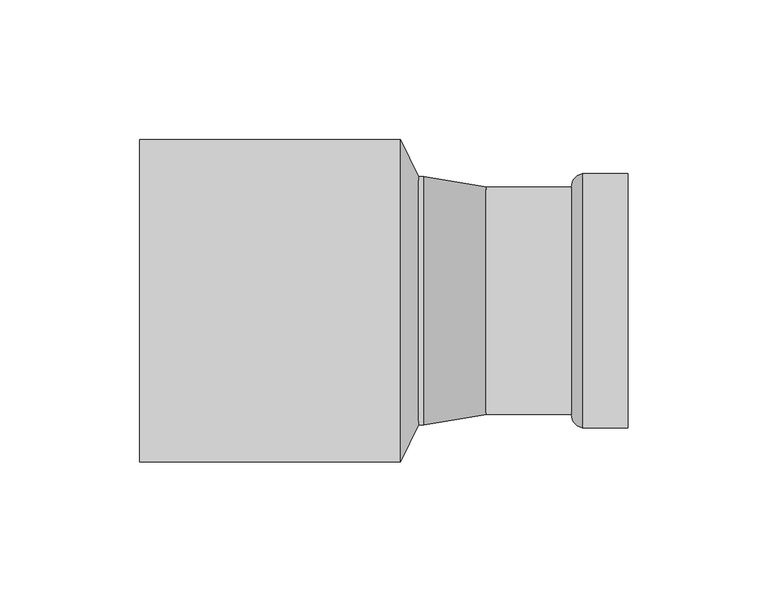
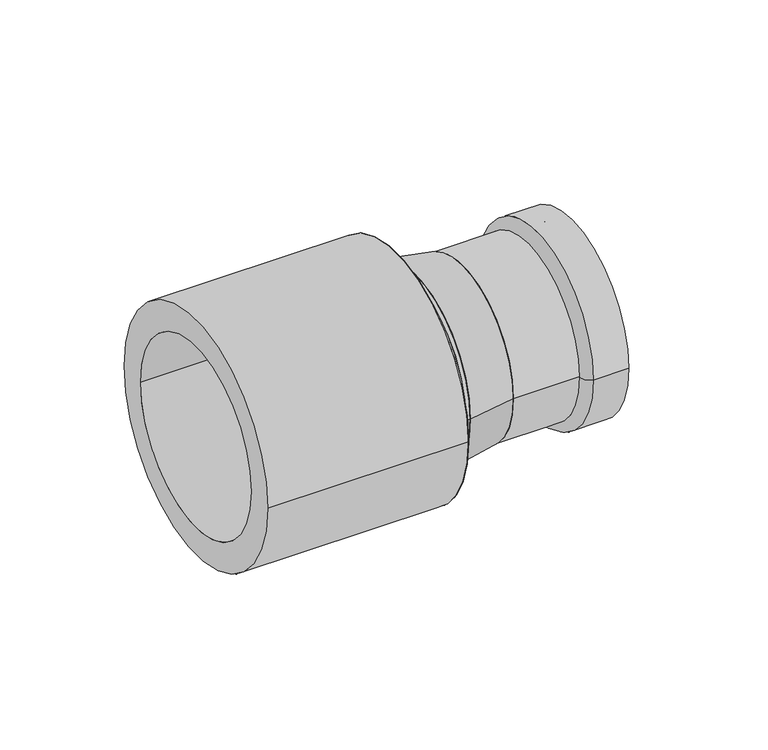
"""IFC4 building model written with IfcOpenShell, lengths in millimetres: pipe fitting geometry, VALTEC_VTi.905.I_Вставка переходная_Нержавеющая сталь : VTi.905.I."""

import ifcopenshell
import ifcopenshell.guid

model = None  # the IFC model being written
_history = None  # IfcOwnerHistory: only IFC2X3 demands one
_inside = {}  # id of a spatial element -> (the spatial element, [elements in it])
_under = {}  # id of a project, library or spatial element -> (it, [spatial elements below it])
_declared = {}  # id of a project -> (the project, [libraries it declares])
_typed = {}  # id of a type object -> (the type object, [elements of that type])
_made_of = {}  # id of a material, layer set ... -> (it, [elements and type objects made of it])


def new_model(schema):
    """Start an empty IFC model of exactly this schema.

    Asked for "IFC4X3", IfcOpenShell would pick the latest addendum, in which some entities
    have other attributes; the version numbers below select the first issue.
    IFC2X3 requires an IfcOwnerHistory on every rooted entity: one is made here for all.
    """
    global model, _history
    if schema == "IFC4X3":
        model = ifcopenshell.file(schema_version=(4, 3, 0, 0))
    else:
        model = ifcopenshell.file(schema=schema)
    _inside.clear()
    _under.clear()
    _declared.clear()
    _typed.clear()
    _made_of.clear()
    _history = None
    if model.schema == "IFC2X3":
        org = make("IfcOrganization", Name="unknown")
        user = make(
            "IfcPersonAndOrganization",
            ThePerson=make("IfcPerson", FamilyName="unknown"),
            TheOrganization=org,
        )
        app = make(
            "IfcApplication",
            ApplicationDeveloper=org,
            Version="unknown",
            ApplicationFullName="unknown",
            ApplicationIdentifier="unknown",
        )
        _history = make(
            "IfcOwnerHistory",
            OwningUser=user,
            OwningApplication=app,
            ChangeAction="ADDED",
            CreationDate=0,
        )
    return model


def make(cls, **values):
    """One entity of the class cls with the attributes given. An attribute that is None is left unset."""
    return model.create_entity(
        cls, **{name: value for name, value in values.items() if value is not None}
    )


def rooted(cls, **values):
    """An entity with a GlobalId (a new one), such as an element, a storey or a relation."""
    return make(cls, GlobalId=ifcopenshell.guid.new(), OwnerHistory=_history, **values)


def si_unit(unit_type, name, prefix=None):
    """IfcSIUnit, for example si_unit("LENGTHUNIT", "METRE", prefix="MILLI")."""
    return make("IfcSIUnit", UnitType=unit_type, Prefix=prefix, Name=name)


def assignment(units):
    """IfcUnitAssignment: the units of a project."""
    return None if units is None else make("IfcUnitAssignment", Units=units)


def point(xyz):
    """IfcCartesianPoint."""
    return None if xyz is None else make("IfcCartesianPoint", Coordinates=xyz)


def direction(xyz):
    """IfcDirection."""
    return None if xyz is None else make("IfcDirection", DirectionRatios=xyz)


def frame(location, z_axis=None, x_axis=None):
    """IfcAxis2Placement3D, a coordinate frame: its origin and axes. An axis left out is left unset."""
    return make(
        "IfcAxis2Placement3D",
        Location=point(location),
        Axis=direction(z_axis),
        RefDirection=direction(x_axis),
    )


def frame_2d(location, x_axis=None):
    """IfcAxis2Placement2D, a coordinate frame in the plane: its origin and x axis."""
    return make(
        "IfcAxis2Placement2D", Location=point(location), RefDirection=direction(x_axis)
    )


def origin():
    """The frame at (0, 0, 0) with its axes left unset."""
    return frame((0.0, 0.0, 0.0))


def origin_2d():
    """The frame at (0, 0) in the plane with its x axis left unset."""
    return frame_2d((0.0, 0.0))


def place(relative_to, where):
    """IfcLocalPlacement: puts the frame where relative to a parent placement (None: the world)."""
    return make(
        "IfcLocalPlacement", PlacementRelTo=relative_to, RelativePlacement=where
    )


def context(
    kind, dimensions, precision=None, world=None, true_north=None, identifier=None
):
    """IfcGeometricRepresentationContext, for example the 3D "Model" context."""
    return make(
        "IfcGeometricRepresentationContext",
        ContextIdentifier=identifier,
        ContextType=kind,
        CoordinateSpaceDimension=dimensions,
        Precision=precision,
        WorldCoordinateSystem=world,
        TrueNorth=true_north,
    )


def project(units=None, contexts=None):
    """IfcProject with its units and contexts."""
    return rooted(
        "IfcProject",
        Name="project",
        RepresentationContexts=contexts,
        UnitsInContext=assignment(units),
    )


def spatial(cls, under=None, at=None, **own):
    """A site, building, storey or space (cls), placed at a placement, below another one or the project."""
    s = rooted(cls, ObjectPlacement=at, **own)
    if under is not None:
        _under.setdefault(under.id(), (under, []))[1].append(s)
    return s


def polyline(points):
    """IfcPolyline through the points."""
    return make("IfcPolyline", Points=[point(p) for p in points])


def circle_curve(where, radius):
    """IfcCircle in the frame where."""
    return make("IfcCircle", Position=where, Radius=radius)


def ellipse_curve(where, semi_axis1, semi_axis2):
    """IfcEllipse in the frame where."""
    return make(
        "IfcEllipse", Position=where, SemiAxis1=semi_axis1, SemiAxis2=semi_axis2
    )


def trimmed(basis, trim1, trim2, sense, master):
    """IfcTrimmedCurve: the piece of a basis curve between two trims."""
    return make(
        "IfcTrimmedCurve",
        BasisCurve=basis,
        Trim1=trim1,
        Trim2=trim2,
        SenseAgreement=sense,
        MasterRepresentation=master,
    )


def segment(curve, same_sense, transition):
    """IfcCompositeCurveSegment."""
    return make(
        "IfcCompositeCurveSegment",
        Transition=transition,
        SameSense=same_sense,
        ParentCurve=curve,
    )


def composite_curve(segments, self_intersect=None):
    """IfcCompositeCurve: segments joined end to end."""
    return make("IfcCompositeCurve", Segments=segments, SelfIntersect=self_intersect)


def outline(outer, holes=None, kind="AREA"):
    """IfcArbitraryClosedProfileDef: a profile drawn as a closed curve; with holes, ...WithVoids."""
    if holes is None:
        return make("IfcArbitraryClosedProfileDef", ProfileType=kind, OuterCurve=outer)
    return make(
        "IfcArbitraryProfileDefWithVoids",
        ProfileType=kind,
        OuterCurve=outer,
        InnerCurves=holes,
    )


def extrude(swept, where, along, depth):
    """IfcExtrudedAreaSolid: the profile swept, set in the frame where, extruded along a direction by depth."""
    return make(
        "IfcExtrudedAreaSolid",
        SweptArea=swept,
        Position=where,
        ExtrudedDirection=direction(along),
        Depth=depth,
    )


def shape(context_of_items, identifier, shape_type, items):
    """IfcShapeRepresentation: the items that make up one representation, for example the "Body"."""
    return make(
        "IfcShapeRepresentation",
        ContextOfItems=context_of_items,
        RepresentationIdentifier=identifier,
        RepresentationType=shape_type,
        Items=items,
    )


def source(mapping_origin, context_of_items, identifier, shape_type, items):
    """IfcRepresentationMap: a shape defined once, which mapped items show again and again."""
    return make(
        "IfcRepresentationMap",
        MappingOrigin=mapping_origin,
        MappedRepresentation=shape(context_of_items, identifier, shape_type, items),
    )


def transform(
    local_origin,
    x_axis=None,
    y_axis=None,
    z_axis=None,
    scale=None,
    scale2=None,
    scale3=None,
    uniform=True,
):
    """IfcCartesianTransformationOperator3D, or its non-uniform kind. x_axis, y_axis, z_axis: its Axis1, 2, 3."""
    if uniform:
        return make(
            "IfcCartesianTransformationOperator3D",
            Axis1=direction(x_axis),
            Axis2=direction(y_axis),
            LocalOrigin=point(local_origin),
            Scale=scale,
            Axis3=direction(z_axis),
        )
    return make(
        "IfcCartesianTransformationOperator3DnonUniform",
        Axis1=direction(x_axis),
        Axis2=direction(y_axis),
        LocalOrigin=point(local_origin),
        Scale=scale,
        Axis3=direction(z_axis),
        Scale2=scale2,
        Scale3=scale3,
    )


def mapped(mapping_source, mapping_target):
    """IfcMappedItem: shows the shape of a source again, moved by a transform."""
    return make(
        "IfcMappedItem", MappingSource=mapping_source, MappingTarget=mapping_target
    )


def made_of(thing, what):
    """Note that an element or type object is made of a material, layer set ...; save() writes the relation."""
    if what is not None:
        _made_of.setdefault(what.id(), (what, []))[1].append(thing)
    return thing


def element(
    cls,
    number,
    at=None,
    inside=None,
    cuts=None,
    type_object=None,
    material=None,
    context=None,
    identifier="Body",
    shape_type=None,
    held_by="IfcProductDefinitionShape",
    body=None,
    shapes=None,
    **own,
):
    """One element of the class cls, such as IfcWall. Its Tag is "e" and its number.

    at: its placement. inside: the storey or other place that contains it. cuts: it is an
    opening in that element (IfcRelVoidsElement). A single representation is given by context,
    identifier, shape_type and body (its items); several are given by shapes. held_by: the class
    of the entity that holds the representations. save() writes the other relations.
    """
    e = rooted(cls, Tag="e%d" % number, ObjectPlacement=at, **own)
    if body is not None:
        shapes = [shape(context, identifier, shape_type, body)]
    if shapes is not None:
        e.Representation = make(held_by, Representations=shapes)
    if inside is not None:
        _inside.setdefault(inside.id(), (inside, []))[1].append(e)
    if cuts is not None:
        rooted(
            "IfcRelVoidsElement", RelatingBuildingElement=cuts, RelatedOpeningElement=e
        )
    if type_object is not None:
        _typed.setdefault(type_object.id(), (type_object, []))[1].append(e)
    return made_of(e, material)


def aggregate(whole, parts):
    """IfcRelAggregates: a whole, such as a stair, and the parts it consists of."""
    return rooted("IfcRelAggregates", RelatingObject=whole, RelatedObjects=parts)


def save(model, path):
    """Write the relations noted so far, then the file.

    IfcRelAggregates (storeys below a building ...), IfcRelContainedInSpatialStructure (elements
    in a storey), IfcRelDefinesByType, IfcRelAssociatesMaterial and IfcRelDeclares: one each for
    every whole, place, type object, material and project.
    """
    for whole, parts in _under.values():
        aggregate(whole, parts)
    for where, things in _inside.values():
        rooted(
            "IfcRelContainedInSpatialStructure",
            RelatedElements=things,
            RelatingStructure=where,
        )
    for kind, things in _typed.values():
        rooted("IfcRelDefinesByType", RelatedObjects=things, RelatingType=kind)
    for what, things in _made_of.values():
        rooted("IfcRelAssociatesMaterial", RelatedObjects=things, RelatingMaterial=what)
    for by, libraries in _declared.values():
        rooted("IfcRelDeclares", RelatingContext=by, RelatedDefinitions=libraries)
    model.write(path)


def plane_surface(at):
    """IfcPlane: the flat surface through the origin of the frame at, square to its z axis."""
    return make("IfcPlane", Position=at)


def cylinder_surface(at, radius):
    """IfcCylindricalSurface: all points at the distance radius from the z axis of the frame at."""
    return make("IfcCylindricalSurface", Position=at, Radius=radius)


def revolved_surface(curve, axis_point, axis_direction):
    """IfcSurfaceOfRevolution: the curve turned about the line through axis_point along axis_direction."""
    return make(
        "IfcSurfaceOfRevolution",
        SweptCurve=make("IfcArbitraryOpenProfileDef", ProfileType="CURVE", Curve=curve),
        AxisPosition=make("IfcAxis1Placement", Location=point(axis_point), Axis=direction(axis_direction)),
    )


def advanced_brep(points, edges, surfaces, faces):
    """IfcAdvancedBrep: a solid bounded by faces that lie on surfaces and meet in shared edges.

    An edge is (start, end): straight between two places in points (the first is 0);
    or (start, end, curve); or (start, end, curve, False) where it runs against its curve.
    A face is (place in surfaces, loops), or (place, loops, False) where it looks against
    its surface's normal. A loop lists edges by number (the first is 1), with a minus sign
    where the edge is run from its end to its start. The first loop is the outer one.
    """
    corners = [point(p) for p in points]
    vertices = [make("IfcVertexPoint", VertexGeometry=c) for c in corners]
    made = []
    for start, end, *more in edges:
        made.append(
            make(
                "IfcEdgeCurve",
                EdgeStart=vertices[start],
                EdgeEnd=vertices[end],
                EdgeGeometry=more[0] if more else make("IfcPolyline", Points=[corners[start], corners[end]]),
                SameSense=more[1] if len(more) > 1 else True,
            )
        )
    hull = []
    for where, loops, *sense in faces:
        bounds = []
        for j, loop in enumerate(loops):
            ring = [make("IfcOrientedEdge", EdgeElement=made[abs(k) - 1], Orientation=k > 0) for k in loop]
            bounds.append(
                make(
                    "IfcFaceOuterBound" if j == 0 else "IfcFaceBound",
                    Bound=make("IfcEdgeLoop", EdgeList=ring),
                    Orientation=True,
                )
            )
        hull.append(make("IfcAdvancedFace", Bounds=bounds, FaceSurface=surfaces[where], SameSense=sense[0] if sense else True))
    return make("IfcAdvancedBrep", Outer=make("IfcClosedShell", CfsFaces=hull))


def pipe_fitting_757c0c30(model_context):
    return source(origin(), model_context, "Body", "SolidModel", [
        advanced_brep(
        [(87.5, -38.05, 0.0), (87.5, -45.5, 0.0), (87.5, 45.5, 0.0), (87.5, 38.05, 0.0), (36.69, -38.05, 0.0), (36.69, 38.05, 0.0), (36.69, -40.75, 0.0), (36.69, 40.75, 0.0), (67.25, -40.75, 0.0), (67.25, 40.75, 0.0), (71.1, -45.5, 0.0), (71.1, 45.5, 0.0)],
        [
            (0, 1),
            (1, 2, circle_curve(frame((87.5, 0.0, 0.0), z_axis=(1.0, 0.0, 0.0), x_axis=(0.0, 1.0, 0.0)), 45.5)),
            (2, 3),
            (3, 0, circle_curve(frame((87.5, 0.0, 0.0), z_axis=(-1.0, 0.0, 0.0), x_axis=(0.0, 1.0, 0.0)), 38.05)),
            (2, 1, circle_curve(frame((87.5, 0.0, 0.0), z_axis=(1.0, 0.0, 0.0), x_axis=(0.0, 1.0, 0.0)), 45.5)),
            (0, 3, circle_curve(frame((87.5, 0.0, 0.0), z_axis=(-1.0, 0.0, 0.0), x_axis=(0.0, 1.0, 0.0)), 38.05)),
            (4, 0),
            (3, 5),
            (5, 4, circle_curve(frame((36.69, 0.0, 0.0), z_axis=(-1.0, 0.0, 0.0), x_axis=(0.0, 1.0, 0.0)), 38.05)),
            (4, 5, circle_curve(frame((36.69, 0.0, 0.0), z_axis=(-1.0, 0.0, 0.0), x_axis=(0.0, 1.0, 0.0)), 38.05)),
            (6, 4),
            (5, 7),
            (7, 6, circle_curve(frame((36.69, 0.0, 0.0), z_axis=(-1.0, 0.0, 0.0), x_axis=(0.0, 1.0, 0.0)), 40.75)),
            (6, 7, circle_curve(frame((36.69, 0.0, 0.0), z_axis=(-1.0, 0.0, 0.0), x_axis=(0.0, 1.0, 0.0)), 40.75)),
            (8, 6),
            (7, 9),
            (9, 8, circle_curve(frame((67.25, 0.0, 0.0), z_axis=(-1.0, 0.0, 0.0), x_axis=(0.0, 1.0, 0.0)), 40.75)),
            (8, 9, circle_curve(frame((67.25, 0.0, 0.0), z_axis=(-1.0, 0.0, 0.0), x_axis=(0.0, 1.0, 0.0)), 40.75)),
            (10, 8, circle_curve(frame((71.9665873, -40.862345, 0.0), z_axis=(0.0, 0.0, -1.0), x_axis=(-1.0, 0.0, 0.0)), 4.7179251)),
            (9, 11, circle_curve(frame((71.9665873, 40.862345, 0.0), z_axis=(0.0, 0.0, -1.0), x_axis=(-1.0, 0.0, 0.0)), 4.7179251)),
            (11, 10, circle_curve(frame((71.1, 0.0, 0.0), z_axis=(-1.0, 0.0, 0.0), x_axis=(0.0, 1.0, 0.0)), 45.5)),
            (10, 11, circle_curve(frame((71.1, 0.0, 0.0), z_axis=(-1.0, 0.0, 0.0), x_axis=(0.0, 1.0, 0.0)), 45.5)),
            (1, 10),
            (11, 2),
        ],
        [
            plane_surface(frame((87.5, 0.0, 0.0), z_axis=(1.0, 0.0, 0.0), x_axis=(0.0, 1.0, 0.0))),
            revolved_surface(polyline([(87.5, 38.05, 0.0), (36.69, 38.05, 0.0)]), (57.6506392, 0.0, 0.0), (1.0, 0.0, 0.0)),
            plane_surface(frame((36.69, 0.0, 0.0), z_axis=(-1.0, 0.0, 0.0), x_axis=(0.0, 1.0, 0.0))),
            cylinder_surface(frame((57.6506392, 0.0, 0.0), z_axis=(1.0, 0.0, 0.0), x_axis=(0.0, 1.0, 0.0)), 40.75),
            revolved_surface(trimmed(ellipse_curve(frame((71.9665873, 40.862345, 0.0), z_axis=(0.0, 0.0, -1.0), x_axis=(-1.0, 0.0, 0.0)), 4.7179251, 4.7179251), [point((67.25, 40.75, 0.0))], [point((71.1, 45.5, 0.0))], True, "CARTESIAN"), (57.6506392, 0.0, 0.0), (1.0, 0.0, 0.0)),
            cylinder_surface(frame((57.6506392, 0.0, 0.0), z_axis=(1.0, 0.0, 0.0), x_axis=(0.0, 1.0, 0.0)), 45.5),
        ],
        [
            (0, [[1, 2, 3, 4]]),
            (0, [[-3, 5, -1, 6]]),
            (1, [[7, -4, 8, 9]]),
            (1, [[-8, -6, -7, 10]]),
            (2, [[11, -9, 12, 13]]),
            (2, [[-12, -10, -11, 14]]),
            (3, [[15, -13, 16, 17]]),
            (3, [[-16, -14, -15, 18]]),
            (4, [[19, -17, 20, 21]]),
            (4, [[-20, -18, -19, 22]]),
            (5, [[23, -21, 24, -2]]),
            (5, [[-24, -22, -23, -5]]),
        ],
    ),
        advanced_brep(
        [(14.5, -44.45, 0.0), (14.5, 44.45, 0.0), (37.0, -40.75, 0.0), (37.0, 40.75, 0.0)],
        [
            (0, 1, circle_curve(frame((14.5, 0.0, 0.0), z_axis=(-1.0, 0.0, 0.0), x_axis=(0.0, -1.0, 0.0)), 44.45)),
            (1, 0, circle_curve(frame((14.5, 0.0, 0.0), z_axis=(-1.0, 0.0, 0.0), x_axis=(0.0, 1.0, 0.0)), 44.45)),
            (2, 3, circle_curve(frame((37.0, 0.0, 0.0), z_axis=(1.0, 0.0, 0.0), x_axis=(0.0, 1.0, 0.0)), 40.75)),
            (3, 2, circle_curve(frame((37.0, 0.0, 0.0), z_axis=(1.0, 0.0, 0.0), x_axis=(0.0, -1.0, 0.0)), 40.75)),
            (2, 0),
            (1, 3),
        ],
        [
            plane_surface(frame((14.5, 0.0, 0.0), z_axis=(-1.0, 0.0, 0.0), x_axis=(0.0, 0.0, 1.0))),
            plane_surface(frame((37.0, 0.0, 0.0), z_axis=(1.0, 0.0, 0.0), x_axis=(0.0, 0.0, 1.0))),
            revolved_surface(polyline([(37.0, -40.75000000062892, 0.0), (14.5, -44.45, 0.0)]), (284.8040541, 0.0, 0.0), (-1.0, 0.0, 0.0)),
            revolved_surface(polyline([(37.0, 40.75000000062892, 0.0), (14.5, 44.45, 0.0)]), (284.8040541, 0.0, 0.0), (-1.0, 0.0, 0.0)),
        ],
        [
            (0, [[1, 2]]),
            (1, [[3, 4]]),
            (2, [[-3, 5, -2, 6]]),
            (3, [[-4, -6, -1, -5]]),
        ],
    ),
        extrude(outline(composite_curve([segment(trimmed(circle_curve(origin_2d(), 44.45), [point((-44.45, 0.0))], [point((44.45, 0.0))], False, "CARTESIAN"), True, "CONTINUOUS"), segment(trimmed(circle_curve(origin_2d(), 44.45), [point((44.45, 0.0))], [point((-44.45, 0.0))], False, "CARTESIAN"), True, "CONTINUOUS")], self_intersect=False)), frame((12.5, 0.0, 0.0), z_axis=(1.0, 0.0, 0.0), x_axis=(0.0, 1.0, 0.0)), (0.0, 0.0, 1.0), 2.0),
        advanced_brep(
        [(12.5, -44.45, 0.0), (12.5, 44.45, 0.0), (6.0, -57.785, 0.0), (6.0, 57.785, 0.0)],
        [
            (0, 1, circle_curve(frame((12.5, 0.0, 0.0), z_axis=(1.0, 0.0, 0.0), x_axis=(0.0, -1.0, 0.0)), 44.45)),
            (1, 0, circle_curve(frame((12.5, 0.0, 0.0), z_axis=(1.0, 0.0, 0.0), x_axis=(0.0, 1.0, 0.0)), 44.45)),
            (2, 3, circle_curve(frame((6.0, 0.0, 0.0), z_axis=(-1.0, 0.0, 0.0), x_axis=(0.0, 1.0, 0.0)), 57.785)),
            (3, 2, circle_curve(frame((6.0, 0.0, 0.0), z_axis=(-1.0, 0.0, 0.0), x_axis=(0.0, -1.0, 0.0)), 57.785)),
            (3, 1),
            (0, 2),
        ],
        [
            plane_surface(frame((12.5, 0.0, 0.0), z_axis=(1.0, 0.0, 0.0), x_axis=(0.0, 0.0, -1.0))),
            plane_surface(frame((6.0, 0.0, 0.0), z_axis=(-1.0, 0.0, 0.0), x_axis=(0.0, 0.0, -1.0))),
            revolved_surface(polyline([(12.5, -44.450000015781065, 0.0), (6.0, -57.785, 0.0)]), (34.1666667, 0.0, 0.0), (-1.0, 0.0, 0.0)),
            revolved_surface(polyline([(12.5, 44.450000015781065, 0.0), (6.0, 57.785, 0.0)]), (34.1666667, 0.0, 0.0), (-1.0, 0.0, 0.0)),
        ],
        [
            (0, [[1, 2]]),
            (1, [[3, 4]]),
            (2, [[-4, 5, -1, 6]]),
            (3, [[-3, -6, -2, -5]]),
        ],
    ),
        extrude(outline(composite_curve([segment(trimmed(circle_curve(origin_2d(), 57.785), [point((-57.785, 0.0))], [point((57.785, 0.0))], False, "CARTESIAN"), True, "CONTINUOUS"), segment(trimmed(circle_curve(origin_2d(), 57.785), [point((57.785, 0.0))], [point((-57.785, 0.0))], False, "CARTESIAN"), True, "CONTINUOUS")], self_intersect=False), holes=[composite_curve([segment(trimmed(circle_curve(origin_2d(), 44.45), [point((-44.45, 0.0))], [point((44.45, 0.0))], True, "CARTESIAN"), True, "CONTINUOUS"), segment(trimmed(circle_curve(origin_2d(), 44.45), [point((44.45, 0.0))], [point((-44.45, 0.0))], True, "CARTESIAN"), True, "CONTINUOUS")], self_intersect=False)]), frame((-87.5, 0.0, 0.0), z_axis=(1.0, 0.0, 0.0), x_axis=(0.0, 1.0, 0.0)), (0.0, 0.0, 1.0), 93.5),
    ])


if __name__ == "__main__":
    model = new_model("IFC4")
    model_context = context("Model", 3, world=origin())
    ifc_project = project(units=[si_unit("LENGTHUNIT", "METRE", prefix="MILLI")], contexts=[model_context])
    site = spatial("IfcSite", under=ifc_project)
    building = spatial("IfcBuilding", under=site)
    placement = place(None, origin())
    pipe_fitting_shape = pipe_fitting_757c0c30(model_context)
    element("IfcPipeFitting", 1, ObjectType="VALTEC_VTi.905.I_Вставка переходная_Нержавеющая сталь : VTi.905.I", at=placement, inside=building, context=model_context, shape_type="MappedRepresentation", body=[
        mapped(pipe_fitting_shape, transform((0.0, 0.0, 0.0), x_axis=(1.0, 0.0, 0.0), y_axis=(0.0, 1.0, 0.0), z_axis=(0.0, 0.0, 1.0))),
    ])
    save(model, "model.ifc")
